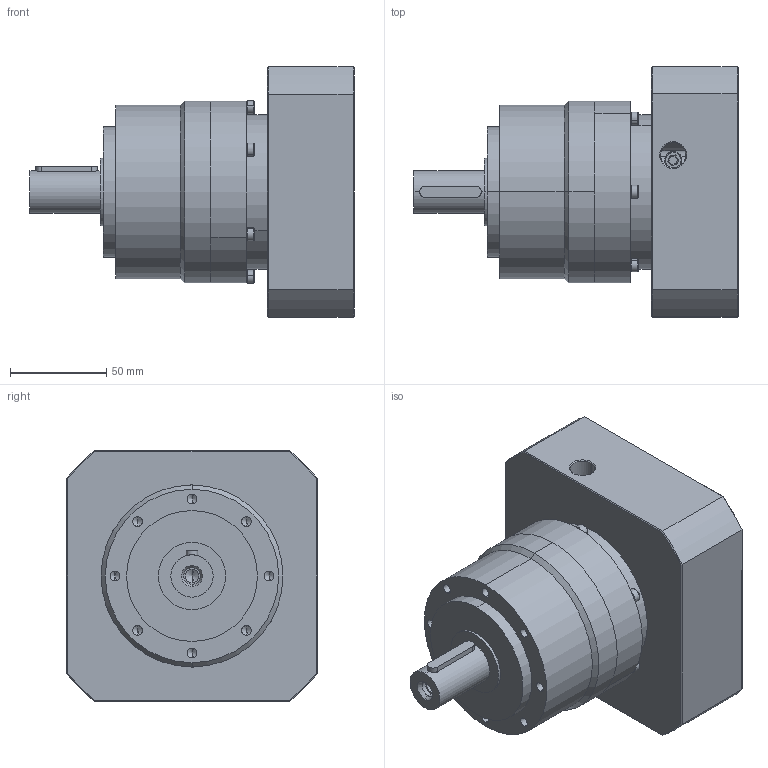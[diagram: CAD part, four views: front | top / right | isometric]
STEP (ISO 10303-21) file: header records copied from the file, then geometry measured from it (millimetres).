
FILE_DESCRIPTION (( 'STEP AP203' ), '1' );
FILE_NAME ('6C3YS.110130.145.STEP', '2019-06-13T05:25:42', ( '' ), ( '' ), 'SwSTEP 2.0', 'SolidWorks 2010', '' );
FILE_SCHEMA (( 'CONFIG_CONTROL_DESIGN' ));
Length unit declared in the file: millimetre
Products named in the file (7): 6C3YS.110130.145; PGCH90-BP24(模型)_3.成品; M4-0.7-25內六角螺絲; PGCH90-B(模型)_PEH90-03B; 雙圓鍵6x6x32_Default; 2341F35412_9成品; M5-0.8-20內六角螺絲
Assembly tree (15 placements, depth 2):
  6C3YS.110130.145
    M5-0.8-20內六角螺絲  x5
    雙圓鍵6x6x32_Default
    M4-0.7-25內六角螺絲  x6
    PGCH90-BP24(模型)_3.成品
    2341F35412_9成品
    PGCH90-B(模型)_PEH90-03B
Bounding box: 168.4 x 130 x 130 mm (x, y, z)
Volume: 1092841.6 mm3; surface area: 138411.3 mm2
Topology: 15 solids, 15 shells, 484 faces, 1080 edges, 639 vertices
Faces by surface type: plane 185, cylinder 167, cone 132
Entity records: 9015 total; most frequent: CARTESIAN_POINT 1617, DIRECTION 1464, ORIENTED_EDGE 1216, EDGE_CURVE 608, AXIS2_PLACEMENT_3D 586, VERTEX_POINT 381, EDGE_LOOP 349, VECTOR 292
